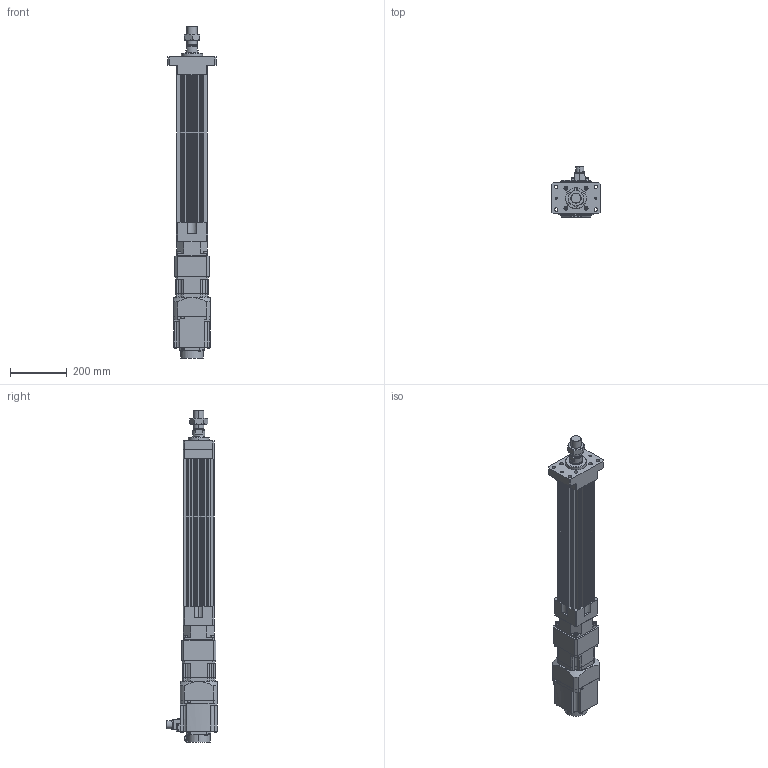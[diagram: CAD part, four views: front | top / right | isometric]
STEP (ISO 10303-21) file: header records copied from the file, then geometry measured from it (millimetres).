
FILE_DESCRIPTION (( 'STEP AP203' ), '1' );
FILE_NAME ('HES110NS(HS)-S350-W015G00-M-FM.STEP', '2023-01-28T06:10:48', ( 'tms' ), ( '' ), 'SwSTEP 2.0', 'SolidWorks 2013', '' );
FILE_SCHEMA (( 'CONFIG_CONTROL_DESIGN' ));
Length unit declared in the file: millimetre
Products named in the file (8): M36X1.5P; HG-SR152; HES110-S350-G120-FM; HES110 ROD M ST350; AB115-003[HG-SR152]; HES110NS(HS)-S350-W015G00-M-FM; P0401400706; AB1151
Assembly tree (7 placements, depth 3):
  HES110NS(HS)-S350-W015G00-M-FM
    HES110-S350-G120-FM
    HES110 ROD M ST350
    M36X1.5P
    AB115-003[HG-SR152]
      AB1151
      P0401400706
    HG-SR152
Bounding box: 170 x 177.49 x 1171.5 mm (x, y, z)
Volume: 7651928.7 mm3; surface area: 1048049.6 mm2
Topology: 4 solids, 15 shells, 1170 faces, 2958 edges, 1925 vertices
Faces by surface type: plane 559, cylinder 525, cone 74, bspline 8, torus 4
Entity records: 36974 total; most frequent: CARTESIAN_POINT 7028, DIRECTION 6389, ORIENTED_EDGE 5864, EDGE_CURVE 2942, AXIS2_PLACEMENT_3D 2346, VERTEX_POINT 1925, VECTOR 1697, LINE 1697
